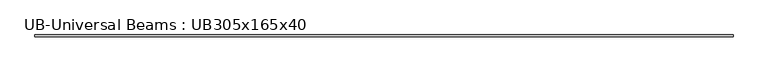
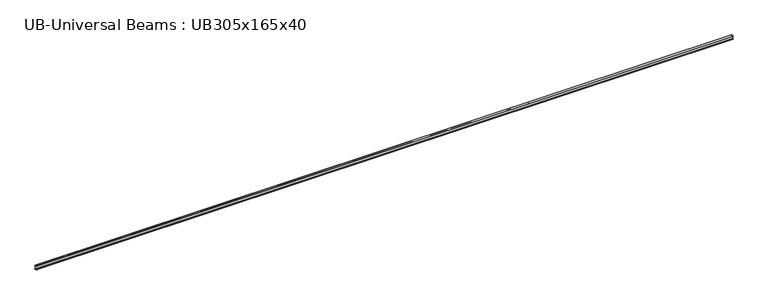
"""IFC4 building model written with IfcOpenShell, lengths in millimetres: beam geometry, UB-Universal Beams : UB305x165x40."""

from ifc_helpers import new_model, si_unit, point, frame, frame_2d, origin, place, context, project, spatial, polyline, circle_curve, trimmed, segment, composite_curve, outline, extrude, source, transform, mapped, element, save


def ub_universal_beams_ub305x165x40_7b27b8ec(model_context):
    return source(origin(), model_context, "Body", "SweptSolid", [
        extrude(outline(composite_curve([segment(polyline([(82.5, -141.5), (82.5, -151.7), (-82.5, -151.7), (-82.5, -141.5), (-11.9, -141.5)]), True, "CONTINUOUS"), segment(trimmed(circle_curve(frame_2d((-11.9, -132.6)), 8.9), [point((-11.9, -141.5))], [point((-3.0, -132.6))], True, "CARTESIAN"), True, "CONTINUOUS"), segment(polyline([(-3.0, -132.6), (-3.0, 132.6)]), True, "CONTINUOUS"), segment(trimmed(circle_curve(frame_2d((-11.9, 132.6)), 8.9), [point((-3.0, 132.6))], [point((-11.9, 141.5))], True, "CARTESIAN"), True, "CONTINUOUS"), segment(polyline([(-11.9, 141.5), (-82.5, 141.5), (-82.5, 151.7), (82.5, 151.7), (82.5, 141.5), (11.9, 141.5)]), True, "CONTINUOUS"), segment(trimmed(circle_curve(frame_2d((11.9, 132.6)), 8.9), [point((11.9, 141.5))], [point((3.0, 132.6))], True, "CARTESIAN"), True, "CONTINUOUS"), segment(polyline([(3.0, 132.6), (3.0, -132.6)]), True, "CONTINUOUS"), segment(trimmed(circle_curve(frame_2d((11.9, -132.6)), 8.9), [point((3.0, -132.6))], [point((11.9, -141.5))], True, "CARTESIAN"), True, "CONTINUOUS"), segment(polyline([(11.9, -141.5), (82.5, -141.5)]), True, "CONTINUOUS")], self_intersect=False)), frame((-30000.0, 0.0, 0.0), z_axis=(1.0, 0.0, 0.0), x_axis=(0.0, 1.0, 0.0)), (0.0, 0.0, 1.0), 60000.0),
    ])


if __name__ == "__main__":
    model = new_model("IFC4")
    model_context = context("Model", 3, world=origin())
    ifc_project = project(units=[si_unit("LENGTHUNIT", "METRE", prefix="MILLI")], contexts=[model_context])
    site = spatial("IfcSite", under=ifc_project)
    building = spatial("IfcBuilding", under=site)
    placement = place(None, origin())
    ub_universal_beams_ub305x165x40_shape = ub_universal_beams_ub305x165x40_7b27b8ec(model_context)
    element("IfcBeam", 1, ObjectType="UB-Universal Beams : UB305x165x40", at=placement, inside=building, context=model_context, shape_type="MappedRepresentation", body=[
        mapped(ub_universal_beams_ub305x165x40_shape, transform((0.0, 0.0, 0.0), x_axis=(1.0, 0.0, 0.0), y_axis=(0.0, 1.0, 0.0), z_axis=(0.0, 0.0, 1.0))),
    ])
    save(model, "model.ifc")
